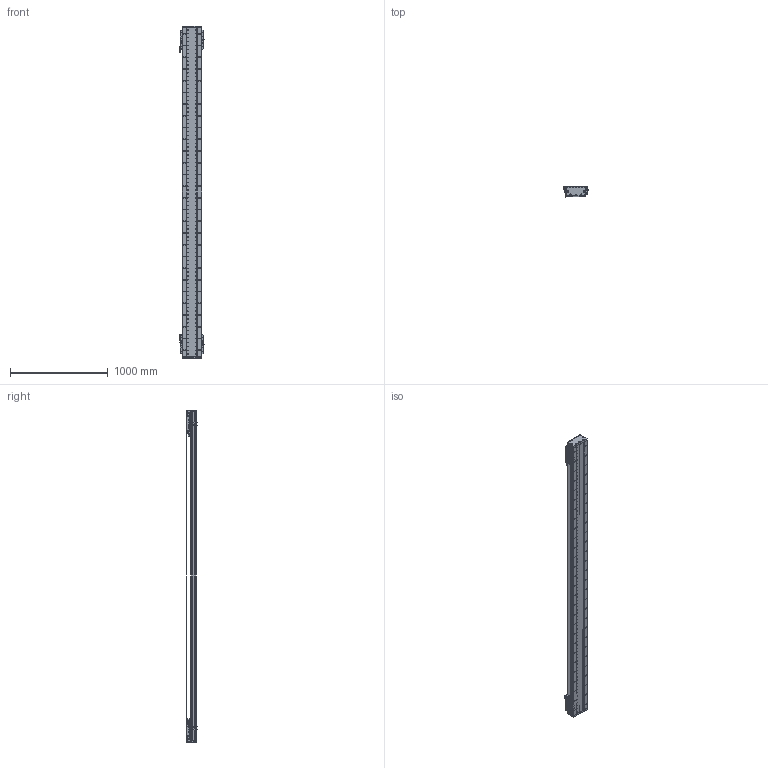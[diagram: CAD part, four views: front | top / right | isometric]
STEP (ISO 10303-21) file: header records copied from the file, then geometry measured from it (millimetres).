
FILE_DESCRIPTION (( 'STEP AP203' ), '1' );
FILE_NAME ('DA-C195-2-C2-T2900-C010-0.2 眻盄萇儂.STEP', '2025-08-14T02:15:07', ( '' ), ( '' ), 'SwSTEP 2.0', 'SolidWorks 2019', '' );
FILE_SCHEMA (( 'CONFIG_CONTROL_DESIGN' ));
Length unit declared in the file: millimetre
Products named in the file (19): IU-CU195-L-00 菁釱(L3360); CU195-C2賑輸-俋楷-1; DA-C195-GD-DB-H-00 傷啣-1; DKW168-HXJ-ZJ-00 笢潔滅袉砎蝶-1; DA195詩湍裔啣-1; 葩璃 DA95-GT-T-00-1; DA-C195-2-C2-T2900-C010-0.2 眻盄萇儂; DA195詩湍郪璃-1; MS200 棠掑喜S315-T1740-1; IU-CU195-L 菁釱絳寢-1; DKW-GYP-ZJ-00 笢潔嫖萇覜茼え-1; DA165-GYP-00 光电感应片(默认)-1; PM-T45ㄗ侂狟ㄘ-1; DA195詩湍嶺輸-1; DA95-HXJ-00 遣喳砎蝶-1; DA195詩湍菜輸-1; LMT黍杅芛-1; PM-Y65嫖萇羲壽郪璃-1; DKW-KGZ-ZJ-00 中间光电开关支架-1
Assembly tree (37 placements, depth 3):
  DA-C195-2-C2-T2900-C010-0.2 眻盄萇儂
    DA195詩湍郪璃-1
      DA195詩湍菜輸-1  x2
      DA195詩湍裔啣-1
      DA195詩湍嶺輸-1  x2
      DA95-HXJ-00 遣喳砎蝶-1  x8
      DA-C195-GD-DB-H-00 傷啣-1  x2
    IU-CU195-L 菁釱絳寢-1
      IU-CU195-L-00 菁釱(L3360)
      葩璃 DA95-GT-T-00-1  x4
    LMT黍杅芛-1  x2
    MS200 棠掑喜S315-T1740-1
    PM-T45ㄗ侂狟ㄘ-1  x4
    DA165-GYP-00 光电感应片(默认)-1  x2
    PM-Y65嫖萇羲壽郪璃-1
    DKW168-HXJ-ZJ-00 笢潔滅袉砎蝶-1
    DKW-GYP-ZJ-00 笢潔嫖萇覜茼え-1
    DKW-KGZ-ZJ-00 中间光电开关支架-1
    CU195-C2賑輸-俋楷-1  x2
Bounding box: 258.2 x 115.45 x 3400 mm (x, y, z)
Volume: 20188201.6 mm3; surface area: 5931361.4 mm2
Topology: 114 solids, 242 shells, 7325 faces, 19799 edges, 12369 vertices
Faces by surface type: cylinder 3604, plane 2637, cone 916, torus 88, sphere 72, bspline 8
Entity records: 167371 total; most frequent: CARTESIAN_POINT 46899, ORIENTED_EDGE 25430, DIRECTION 23850, EDGE_CURVE 12715, AXIS2_PLACEMENT_3D 8817, VERTEX_POINT 8256, VECTOR 6216, LINE 6216
